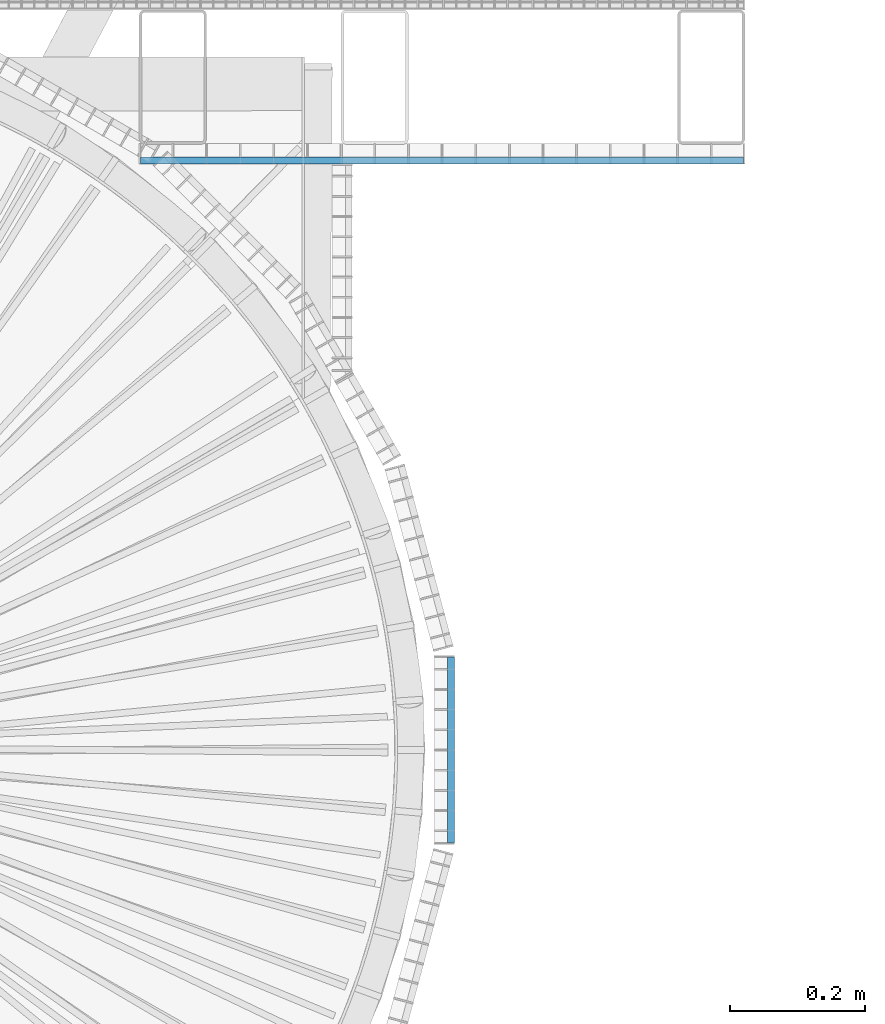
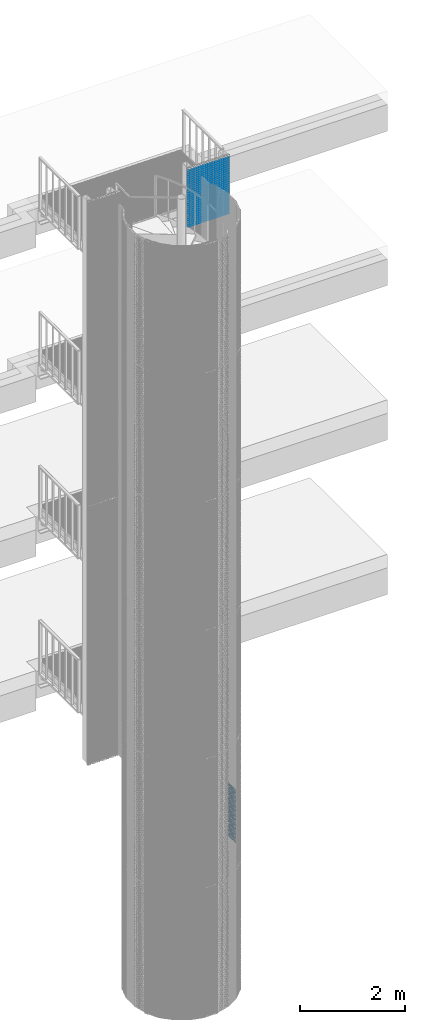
# One storey, part 291 of 1148: 69 beams, 2 elements without a shape of their own.
"""IFC2X3 building model written with IfcOpenShell, lengths in millimetres."""

from ifc_helpers import new_model, si_unit, frame, origin_with_axes, origin_2d_with_axis, place, context, subcontext, project, spatial, rectangle, extrude, material, type_object, element, aggregate, save


model = new_model("IFC2X3")

# Units and contexts
model_context = context("Model", 3, precision=1e-05, world=origin_with_axes())
body_context = subcontext(model_context, "Body", "Model", "MODEL_VIEW")
ifc_project = project(units=[si_unit("LENGTHUNIT", "METRE", prefix="MILLI"), si_unit("AREAUNIT", "SQUARE_METRE"), si_unit("VOLUMEUNIT", "CUBIC_METRE"), si_unit("MASSUNIT", "GRAM", prefix="KILO"), si_unit("TIMEUNIT", "SECOND"), si_unit("PLANEANGLEUNIT", "RADIAN"), si_unit("SOLIDANGLEUNIT", "STERADIAN"), si_unit("THERMODYNAMICTEMPERATUREUNIT", "DEGREE_CELSIUS"), si_unit("LUMINOUSINTENSITYUNIT", "LUMEN")], contexts=[model_context])

# Site, building, storey
site_placement = place(None, origin_with_axes())
site = spatial("IfcSite", under=ifc_project, at=site_placement, Name="Undefined", CompositionType="ELEMENT")
building_placement = place(site_placement, origin_with_axes())
building = spatial("IfcBuilding", under=site, at=building_placement, Name="Undefined", CompositionType="ELEMENT")
storey_placement = place(building_placement, origin_with_axes())
storey = spatial("IfcBuildingStorey", under=building, at=storey_placement, Name="Undefined", CompositionType="ELEMENT", Elevation=0.0)

# Assembly, beams
assembly_1_placement = place(storey_placement, origin_with_axes())
assembly_1 = element("IfcElementAssembly", 1, at=assembly_1_placement, inside=storey, Name="BORDURE", AssemblyPlace="NOTDEFINED", PredefinedType="NOTDEFINED")
ifc_material = material(Name="STEEL/S235JR")
beam_type = type_object("IfcBeamType", Name="PL2*10", PredefinedType="NOTDEFINED")
beam_1_placement = place(assembly_1_placement, frame((1113.47999999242, -137.996003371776, 4260.0), z_axis=(1.0, 0.0, 0.0), x_axis=(0.0, 1.0, 0.0)))
beam_1 = element("IfcBeam", 2, at=beam_1_placement, type_object=beam_type, material=ifc_material, Name="ENTRETOISE", context=body_context, shape_type="SweptSolid", body=[
    extrude(rectangle(XDim=2.0, YDim=10.0, at=origin_2d_with_axis()), frame((275.999999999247, 9.09494701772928e-13, 1.53210777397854e-14), z_axis=(-1.0, 0.0, 0.0), x_axis=(0.0, -1.0, 0.0)), (0.0, 0.0, 1.0), 276.0),
])
beam_2_placement = place(assembly_1_placement, frame((1113.47999999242, -137.996003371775, 4230.0), z_axis=(1.0, 0.0, 0.0), x_axis=(0.0, 1.0, 0.0)))
beam_2 = element("IfcBeam", 3, at=beam_2_placement, type_object=beam_type, material=ifc_material, Name="ENTRETOISE", context=body_context, shape_type="SweptSolid", body=[
    extrude(rectangle(XDim=2.0, YDim=10.0, at=origin_2d_with_axis()), frame((275.999999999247, 9.09494701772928e-13, 1.53210777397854e-14), z_axis=(-1.0, 0.0, 0.0), x_axis=(0.0, -1.0, 0.0)), (0.0, 0.0, 1.0), 276.0),
])
beam_3_placement = place(assembly_1_placement, frame((1113.47999999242, -137.996003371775, 4200.0), z_axis=(1.0, 0.0, 0.0), x_axis=(0.0, 1.0, 0.0)))
beam_3 = element("IfcBeam", 4, at=beam_3_placement, type_object=beam_type, material=ifc_material, Name="ENTRETOISE", context=body_context, shape_type="SweptSolid", body=[
    extrude(rectangle(XDim=2.0, YDim=10.0, at=origin_2d_with_axis()), frame((275.999999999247, 9.09494701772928e-13, 1.53210777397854e-14), z_axis=(-1.0, 0.0, 0.0), x_axis=(0.0, -1.0, 0.0)), (0.0, 0.0, 1.0), 276.0),
])
beam_4_placement = place(assembly_1_placement, frame((1113.47999999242, -137.996003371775, 4170.0), z_axis=(1.0, 0.0, 0.0), x_axis=(0.0, 1.0, 0.0)))
beam_4 = element("IfcBeam", 5, at=beam_4_placement, type_object=beam_type, material=ifc_material, Name="ENTRETOISE", context=body_context, shape_type="SweptSolid", body=[
    extrude(rectangle(XDim=2.0, YDim=10.0, at=origin_2d_with_axis()), frame((275.999999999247, 9.09494701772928e-13, 1.53210777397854e-14), z_axis=(-1.0, 0.0, 0.0), x_axis=(0.0, -1.0, 0.0)), (0.0, 0.0, 1.0), 276.0),
])
beam_5_placement = place(assembly_1_placement, frame((1113.47999999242, -137.996003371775, 4140.0), z_axis=(1.0, 0.0, 0.0), x_axis=(0.0, 1.0, 0.0)))
beam_5 = element("IfcBeam", 6, at=beam_5_placement, type_object=beam_type, material=ifc_material, Name="ENTRETOISE", context=body_context, shape_type="SweptSolid", body=[
    extrude(rectangle(XDim=2.0, YDim=10.0, at=origin_2d_with_axis()), frame((275.999999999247, 9.09494701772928e-13, 1.53210777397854e-14), z_axis=(-1.0, 0.0, 0.0), x_axis=(0.0, -1.0, 0.0)), (0.0, 0.0, 1.0), 276.0),
])
beam_6_placement = place(assembly_1_placement, frame((1113.47999999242, -137.996003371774, 3720.0), z_axis=(1.0, 0.0, 0.0), x_axis=(0.0, 1.0, 0.0)))
beam_6 = element("IfcBeam", 7, at=beam_6_placement, type_object=beam_type, material=ifc_material, Name="ENTRETOISE", context=body_context, shape_type="SweptSolid", body=[
    extrude(rectangle(XDim=2.0, YDim=10.0, at=origin_2d_with_axis()), frame((275.999999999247, 9.09494701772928e-13, 1.53210777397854e-14), z_axis=(-1.0, 0.0, 0.0), x_axis=(0.0, -1.0, 0.0)), (0.0, 0.0, 1.0), 276.0),
])
beam_7_placement = place(assembly_1_placement, frame((1113.47999999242, -137.996003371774, 3690.0), z_axis=(1.0, 0.0, 0.0), x_axis=(0.0, 1.0, 0.0)))
beam_7 = element("IfcBeam", 8, at=beam_7_placement, type_object=beam_type, material=ifc_material, Name="ENTRETOISE", context=body_context, shape_type="SweptSolid", body=[
    extrude(rectangle(XDim=2.0, YDim=10.0, at=origin_2d_with_axis()), frame((275.999999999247, 9.09494701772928e-13, 1.53210777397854e-14), z_axis=(-1.0, 0.0, 0.0), x_axis=(0.0, -1.0, 0.0)), (0.0, 0.0, 1.0), 276.0),
])
beam_8_placement = place(assembly_1_placement, frame((1113.47999999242, -137.996003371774, 3750.0), z_axis=(1.0, 0.0, 0.0), x_axis=(0.0, 1.0, 0.0)))
beam_8 = element("IfcBeam", 9, at=beam_8_placement, type_object=beam_type, material=ifc_material, Name="ENTRETOISE", context=body_context, shape_type="SweptSolid", body=[
    extrude(rectangle(XDim=2.0, YDim=10.0, at=origin_2d_with_axis()), frame((275.999999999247, 9.09494701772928e-13, 1.53210777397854e-14), z_axis=(-1.0, 0.0, 0.0), x_axis=(0.0, -1.0, 0.0)), (0.0, 0.0, 1.0), 276.0),
])
beam_9_placement = place(assembly_1_placement, frame((1113.47999999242, -137.996003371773, 3660.0), z_axis=(1.0, 0.0, 0.0), x_axis=(0.0, 1.0, 0.0)))
beam_9 = element("IfcBeam", 10, at=beam_9_placement, type_object=beam_type, material=ifc_material, Name="ENTRETOISE", context=body_context, shape_type="SweptSolid", body=[
    extrude(rectangle(XDim=2.0, YDim=10.0, at=origin_2d_with_axis()), frame((275.999999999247, 9.09494701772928e-13, 1.53210777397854e-14), z_axis=(-1.0, 0.0, 0.0), x_axis=(0.0, -1.0, 0.0)), (0.0, 0.0, 1.0), 276.0),
])
beam_10_placement = place(assembly_1_placement, frame((1113.47999999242, -137.996003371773, 3630.0), z_axis=(1.0, 0.0, 0.0), x_axis=(0.0, 1.0, 0.0)))
beam_10 = element("IfcBeam", 11, at=beam_10_placement, type_object=beam_type, material=ifc_material, Name="ENTRETOISE", context=body_context, shape_type="SweptSolid", body=[
    extrude(rectangle(XDim=2.0, YDim=10.0, at=origin_2d_with_axis()), frame((275.999999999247, 9.09494701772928e-13, 1.53210777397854e-14), z_axis=(-1.0, 0.0, 0.0), x_axis=(0.0, -1.0, 0.0)), (0.0, 0.0, 1.0), 276.0),
])
beam_11_placement = place(assembly_1_placement, frame((1113.47999999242, -137.996003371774, 3780.0), z_axis=(1.0, 0.0, 0.0), x_axis=(0.0, 1.0, 0.0)))
beam_11 = element("IfcBeam", 12, at=beam_11_placement, type_object=beam_type, material=ifc_material, Name="ENTRETOISE", context=body_context, shape_type="SweptSolid", body=[
    extrude(rectangle(XDim=2.0, YDim=10.0, at=origin_2d_with_axis()), frame((275.999999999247, 9.09494701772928e-13, 1.53210777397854e-14), z_axis=(-1.0, 0.0, 0.0), x_axis=(0.0, -1.0, 0.0)), (0.0, 0.0, 1.0), 276.0),
])
beam_12_placement = place(assembly_1_placement, frame((1113.47999999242, -137.996003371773, 3600.0), z_axis=(1.0, 0.0, 0.0), x_axis=(0.0, 1.0, 0.0)))
beam_12 = element("IfcBeam", 13, at=beam_12_placement, type_object=beam_type, material=ifc_material, Name="ENTRETOISE", context=body_context, shape_type="SweptSolid", body=[
    extrude(rectangle(XDim=2.0, YDim=10.0, at=origin_2d_with_axis()), frame((275.999999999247, 9.09494701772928e-13, 1.53210777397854e-14), z_axis=(-1.0, 0.0, 0.0), x_axis=(0.0, -1.0, 0.0)), (0.0, 0.0, 1.0), 276.0),
])
beam_13_placement = place(assembly_1_placement, frame((1113.47999999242, -137.996003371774, 3810.0), z_axis=(1.0, 0.0, 0.0), x_axis=(0.0, 1.0, 0.0)))
beam_13 = element("IfcBeam", 14, at=beam_13_placement, type_object=beam_type, material=ifc_material, Name="ENTRETOISE", context=body_context, shape_type="SweptSolid", body=[
    extrude(rectangle(XDim=2.0, YDim=10.0, at=origin_2d_with_axis()), frame((275.999999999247, 9.09494701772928e-13, 1.53210777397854e-14), z_axis=(-1.0, 0.0, 0.0), x_axis=(0.0, -1.0, 0.0)), (0.0, 0.0, 1.0), 276.0),
])
beam_14_placement = place(assembly_1_placement, frame((1113.47999999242, -137.996003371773, 3570.0), z_axis=(1.0, 0.0, 0.0), x_axis=(0.0, 1.0, 0.0)))
beam_14 = element("IfcBeam", 15, at=beam_14_placement, type_object=beam_type, material=ifc_material, Name="ENTRETOISE", context=body_context, shape_type="SweptSolid", body=[
    extrude(rectangle(XDim=2.0, YDim=10.0, at=origin_2d_with_axis()), frame((275.999999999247, 9.09494701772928e-13, 1.53210777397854e-14), z_axis=(-1.0, 0.0, 0.0), x_axis=(0.0, -1.0, 0.0)), (0.0, 0.0, 1.0), 276.0),
])
beam_15_placement = place(assembly_1_placement, frame((1113.47999999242, -137.996003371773, 3540.0), z_axis=(1.0, 0.0, 0.0), x_axis=(0.0, 1.0, 0.0)))
beam_15 = element("IfcBeam", 16, at=beam_15_placement, type_object=beam_type, material=ifc_material, Name="ENTRETOISE", context=body_context, shape_type="SweptSolid", body=[
    extrude(rectangle(XDim=2.0, YDim=10.0, at=origin_2d_with_axis()), frame((275.999999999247, 9.09494701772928e-13, 1.53210777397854e-14), z_axis=(-1.0, 0.0, 0.0), x_axis=(0.0, -1.0, 0.0)), (0.0, 0.0, 1.0), 276.0),
])
beam_16_placement = place(assembly_1_placement, frame((1113.47999999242, -137.996003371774, 3840.0), z_axis=(1.0, 0.0, 0.0), x_axis=(0.0, 1.0, 0.0)))
beam_16 = element("IfcBeam", 17, at=beam_16_placement, type_object=beam_type, material=ifc_material, Name="ENTRETOISE", context=body_context, shape_type="SweptSolid", body=[
    extrude(rectangle(XDim=2.0, YDim=10.0, at=origin_2d_with_axis()), frame((275.999999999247, 9.09494701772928e-13, 1.53210777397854e-14), z_axis=(-1.0, 0.0, 0.0), x_axis=(0.0, -1.0, 0.0)), (0.0, 0.0, 1.0), 276.0),
])
beam_17_placement = place(assembly_1_placement, frame((1113.47999999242, -137.996003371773, 3510.0), z_axis=(1.0, 0.0, 0.0), x_axis=(0.0, 1.0, 0.0)))
beam_17 = element("IfcBeam", 18, at=beam_17_placement, type_object=beam_type, material=ifc_material, Name="ENTRETOISE", context=body_context, shape_type="SweptSolid", body=[
    extrude(rectangle(XDim=2.0, YDim=10.0, at=origin_2d_with_axis()), frame((275.999999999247, 9.09494701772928e-13, 1.53210777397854e-14), z_axis=(-1.0, 0.0, 0.0), x_axis=(0.0, -1.0, 0.0)), (0.0, 0.0, 1.0), 276.0),
])
beam_18_placement = place(assembly_1_placement, frame((1113.47999999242, -137.996003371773, 3480.0), z_axis=(1.0, 0.0, 0.0), x_axis=(0.0, 1.0, 0.0)))
beam_18 = element("IfcBeam", 19, at=beam_18_placement, type_object=beam_type, material=ifc_material, Name="ENTRETOISE", context=body_context, shape_type="SweptSolid", body=[
    extrude(rectangle(XDim=2.0, YDim=10.0, at=origin_2d_with_axis()), frame((275.999999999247, 9.09494701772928e-13, 1.53210777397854e-14), z_axis=(-1.0, 0.0, 0.0), x_axis=(0.0, -1.0, 0.0)), (0.0, 0.0, 1.0), 276.0),
])
beam_19_placement = place(assembly_1_placement, frame((1113.47999999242, -137.996003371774, 3870.0), z_axis=(1.0, 0.0, 0.0), x_axis=(0.0, 1.0, 0.0)))
beam_19 = element("IfcBeam", 20, at=beam_19_placement, type_object=beam_type, material=ifc_material, Name="ENTRETOISE", context=body_context, shape_type="SweptSolid", body=[
    extrude(rectangle(XDim=2.0, YDim=10.0, at=origin_2d_with_axis()), frame((275.999999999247, 9.09494701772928e-13, 1.53210777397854e-14), z_axis=(-1.0, 0.0, 0.0), x_axis=(0.0, -1.0, 0.0)), (0.0, 0.0, 1.0), 276.0),
])
beam_20_placement = place(assembly_1_placement, frame((1113.47999999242, -137.996003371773, 3450.0), z_axis=(1.0, 0.0, 0.0), x_axis=(0.0, 1.0, 0.0)))
beam_20 = element("IfcBeam", 21, at=beam_20_placement, type_object=beam_type, material=ifc_material, Name="ENTRETOISE", context=body_context, shape_type="SweptSolid", body=[
    extrude(rectangle(XDim=2.0, YDim=10.0, at=origin_2d_with_axis()), frame((275.999999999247, 9.09494701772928e-13, 1.53210777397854e-14), z_axis=(-1.0, 0.0, 0.0), x_axis=(0.0, -1.0, 0.0)), (0.0, 0.0, 1.0), 276.0),
])
beam_21_placement = place(assembly_1_placement, frame((1113.47999999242, -137.996003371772, 3420.0), z_axis=(1.0, 0.0, 0.0), x_axis=(0.0, 1.0, 0.0)))
beam_21 = element("IfcBeam", 22, at=beam_21_placement, type_object=beam_type, material=ifc_material, Name="ENTRETOISE", context=body_context, shape_type="SweptSolid", body=[
    extrude(rectangle(XDim=2.0, YDim=10.0, at=origin_2d_with_axis()), frame((275.999999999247, 9.09494701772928e-13, 1.53210777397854e-14), z_axis=(-1.0, 0.0, 0.0), x_axis=(0.0, -1.0, 0.0)), (0.0, 0.0, 1.0), 276.0),
])
beam_22_placement = place(assembly_1_placement, frame((1113.47999999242, -137.996003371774, 3900.0), z_axis=(1.0, 0.0, 0.0), x_axis=(0.0, 1.0, 0.0)))
beam_22 = element("IfcBeam", 23, at=beam_22_placement, type_object=beam_type, material=ifc_material, Name="ENTRETOISE", context=body_context, shape_type="SweptSolid", body=[
    extrude(rectangle(XDim=2.0, YDim=10.0, at=origin_2d_with_axis()), frame((275.999999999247, 9.09494701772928e-13, 1.53210777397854e-14), z_axis=(-1.0, 0.0, 0.0), x_axis=(0.0, -1.0, 0.0)), (0.0, 0.0, 1.0), 276.0),
])
beam_23_placement = place(assembly_1_placement, frame((1113.47999999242, -137.996003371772, 3390.0), z_axis=(1.0, 0.0, 0.0), x_axis=(0.0, 1.0, 0.0)))
beam_23 = element("IfcBeam", 24, at=beam_23_placement, type_object=beam_type, material=ifc_material, Name="ENTRETOISE", context=body_context, shape_type="SweptSolid", body=[
    extrude(rectangle(XDim=2.0, YDim=10.0, at=origin_2d_with_axis()), frame((275.999999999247, 9.09494701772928e-13, 1.53210777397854e-14), z_axis=(-1.0, 0.0, 0.0), x_axis=(0.0, -1.0, 0.0)), (0.0, 0.0, 1.0), 276.0),
])
beam_24_placement = place(assembly_1_placement, frame((1113.47999999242, -137.996003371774, 3930.0), z_axis=(1.0, 0.0, 0.0), x_axis=(0.0, 1.0, 0.0)))
beam_24 = element("IfcBeam", 25, at=beam_24_placement, type_object=beam_type, material=ifc_material, Name="ENTRETOISE", context=body_context, shape_type="SweptSolid", body=[
    extrude(rectangle(XDim=2.0, YDim=10.0, at=origin_2d_with_axis()), frame((275.999999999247, 9.09494701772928e-13, 1.53210777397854e-14), z_axis=(-1.0, 0.0, 0.0), x_axis=(0.0, -1.0, 0.0)), (0.0, 0.0, 1.0), 276.0),
])
beam_25_placement = place(assembly_1_placement, frame((1113.47999999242, -137.996003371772, 3360.0), z_axis=(1.0, 0.0, 0.0), x_axis=(0.0, 1.0, 0.0)))
beam_25 = element("IfcBeam", 26, at=beam_25_placement, type_object=beam_type, material=ifc_material, Name="ENTRETOISE", context=body_context, shape_type="SweptSolid", body=[
    extrude(rectangle(XDim=2.0, YDim=10.0, at=origin_2d_with_axis()), frame((275.999999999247, 9.09494701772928e-13, 1.53210777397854e-14), z_axis=(-1.0, 0.0, 0.0), x_axis=(0.0, -1.0, 0.0)), (0.0, 0.0, 1.0), 276.0),
])
beam_26_placement = place(assembly_1_placement, frame((1113.47999999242, -137.996003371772, 3330.0), z_axis=(1.0, 0.0, 0.0), x_axis=(0.0, 1.0, 0.0)))
beam_26 = element("IfcBeam", 27, at=beam_26_placement, type_object=beam_type, material=ifc_material, Name="ENTRETOISE", context=body_context, shape_type="SweptSolid", body=[
    extrude(rectangle(XDim=2.0, YDim=10.0, at=origin_2d_with_axis()), frame((275.999999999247, 9.09494701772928e-13, 1.53210777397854e-14), z_axis=(-1.0, 0.0, 0.0), x_axis=(0.0, -1.0, 0.0)), (0.0, 0.0, 1.0), 276.0),
])
beam_27_placement = place(assembly_1_placement, frame((1113.47999999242, -137.996003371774, 3960.0), z_axis=(1.0, 0.0, 0.0), x_axis=(0.0, 1.0, 0.0)))
beam_27 = element("IfcBeam", 28, at=beam_27_placement, type_object=beam_type, material=ifc_material, Name="ENTRETOISE", context=body_context, shape_type="SweptSolid", body=[
    extrude(rectangle(XDim=2.0, YDim=10.0, at=origin_2d_with_axis()), frame((275.999999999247, 9.09494701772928e-13, 1.53210777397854e-14), z_axis=(-1.0, 0.0, 0.0), x_axis=(0.0, -1.0, 0.0)), (0.0, 0.0, 1.0), 276.0),
])
beam_28_placement = place(assembly_1_placement, frame((1113.47999999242, -137.996003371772, 3300.0), z_axis=(1.0, 0.0, 0.0), x_axis=(0.0, 1.0, 0.0)))
beam_28 = element("IfcBeam", 29, at=beam_28_placement, type_object=beam_type, material=ifc_material, Name="ENTRETOISE", context=body_context, shape_type="SweptSolid", body=[
    extrude(rectangle(XDim=2.0, YDim=10.0, at=origin_2d_with_axis()), frame((275.999999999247, 9.09494701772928e-13, 1.53210777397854e-14), z_axis=(-1.0, 0.0, 0.0), x_axis=(0.0, -1.0, 0.0)), (0.0, 0.0, 1.0), 276.0),
])
beam_29_placement = place(assembly_1_placement, frame((1113.47999999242, -137.996003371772, 3270.0), z_axis=(1.0, 0.0, 0.0), x_axis=(0.0, 1.0, 0.0)))
beam_29 = element("IfcBeam", 30, at=beam_29_placement, type_object=beam_type, material=ifc_material, Name="ENTRETOISE", context=body_context, shape_type="SweptSolid", body=[
    extrude(rectangle(XDim=2.0, YDim=10.0, at=origin_2d_with_axis()), frame((275.999999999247, 9.09494701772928e-13, 1.53210777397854e-14), z_axis=(-1.0, 0.0, 0.0), x_axis=(0.0, -1.0, 0.0)), (0.0, 0.0, 1.0), 276.0),
])
beam_30_placement = place(assembly_1_placement, frame((1113.47999999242, -137.996003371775, 3990.0), z_axis=(1.0, 0.0, 0.0), x_axis=(0.0, 1.0, 0.0)))
beam_30 = element("IfcBeam", 31, at=beam_30_placement, type_object=beam_type, material=ifc_material, Name="ENTRETOISE", context=body_context, shape_type="SweptSolid", body=[
    extrude(rectangle(XDim=2.0, YDim=10.0, at=origin_2d_with_axis()), frame((275.999999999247, 9.09494701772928e-13, 1.53210777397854e-14), z_axis=(-1.0, 0.0, 0.0), x_axis=(0.0, -1.0, 0.0)), (0.0, 0.0, 1.0), 276.0),
])
beam_31_placement = place(assembly_1_placement, frame((1113.47999999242, -137.996003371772, 3240.0), z_axis=(1.0, 0.0, 0.0), x_axis=(0.0, 1.0, 0.0)))
beam_31 = element("IfcBeam", 32, at=beam_31_placement, type_object=beam_type, material=ifc_material, Name="ENTRETOISE", context=body_context, shape_type="SweptSolid", body=[
    extrude(rectangle(XDim=2.0, YDim=10.0, at=origin_2d_with_axis()), frame((275.999999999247, 9.09494701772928e-13, 1.53210777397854e-14), z_axis=(-1.0, 0.0, 0.0), x_axis=(0.0, -1.0, 0.0)), (0.0, 0.0, 1.0), 276.0),
])
beam_32_placement = place(assembly_1_placement, frame((1113.47999999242, -137.996003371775, 4020.0), z_axis=(1.0, 0.0, 0.0), x_axis=(0.0, 1.0, 0.0)))
beam_32 = element("IfcBeam", 33, at=beam_32_placement, type_object=beam_type, material=ifc_material, Name="ENTRETOISE", context=body_context, shape_type="SweptSolid", body=[
    extrude(rectangle(XDim=2.0, YDim=10.0, at=origin_2d_with_axis()), frame((275.999999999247, 9.09494701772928e-13, 1.53210777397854e-14), z_axis=(-1.0, 0.0, 0.0), x_axis=(0.0, -1.0, 0.0)), (0.0, 0.0, 1.0), 276.0),
])
beam_33_placement = place(assembly_1_placement, frame((1113.47999999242, -137.996003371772, 3210.0), z_axis=(1.0, 0.0, 0.0), x_axis=(0.0, 1.0, 0.0)))
beam_33 = element("IfcBeam", 34, at=beam_33_placement, type_object=beam_type, material=ifc_material, Name="ENTRETOISE", context=body_context, shape_type="SweptSolid", body=[
    extrude(rectangle(XDim=2.0, YDim=10.0, at=origin_2d_with_axis()), frame((275.999999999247, 9.09494701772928e-13, 1.53210777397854e-14), z_axis=(-1.0, 0.0, 0.0), x_axis=(0.0, -1.0, 0.0)), (0.0, 0.0, 1.0), 276.0),
])
beam_34_placement = place(assembly_1_placement, frame((1113.47999999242, -137.996003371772, 3180.0), z_axis=(1.0, 0.0, 0.0), x_axis=(0.0, 1.0, 0.0)))
beam_34 = element("IfcBeam", 35, at=beam_34_placement, type_object=beam_type, material=ifc_material, Name="ENTRETOISE", context=body_context, shape_type="SweptSolid", body=[
    extrude(rectangle(XDim=2.0, YDim=10.0, at=origin_2d_with_axis()), frame((275.999999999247, 9.09494701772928e-13, 1.53210777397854e-14), z_axis=(-1.0, 0.0, 0.0), x_axis=(0.0, -1.0, 0.0)), (0.0, 0.0, 1.0), 276.0),
])
beam_35_placement = place(assembly_1_placement, frame((1113.47999999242, -137.996003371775, 4050.0), z_axis=(1.0, 0.0, 0.0), x_axis=(0.0, 1.0, 0.0)))
beam_35 = element("IfcBeam", 36, at=beam_35_placement, type_object=beam_type, material=ifc_material, Name="ENTRETOISE", context=body_context, shape_type="SweptSolid", body=[
    extrude(rectangle(XDim=2.0, YDim=10.0, at=origin_2d_with_axis()), frame((275.999999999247, 9.09494701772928e-13, 1.53210777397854e-14), z_axis=(-1.0, 0.0, 0.0), x_axis=(0.0, -1.0, 0.0)), (0.0, 0.0, 1.0), 276.0),
])
beam_36_placement = place(assembly_1_placement, frame((1113.47999999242, -137.996003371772, 3150.0), z_axis=(1.0, 0.0, 0.0), x_axis=(0.0, 1.0, 0.0)))
beam_36 = element("IfcBeam", 37, at=beam_36_placement, type_object=beam_type, material=ifc_material, Name="ENTRETOISE", context=body_context, shape_type="SweptSolid", body=[
    extrude(rectangle(XDim=2.0, YDim=10.0, at=origin_2d_with_axis()), frame((275.999999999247, 9.09494701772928e-13, 1.53210777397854e-14), z_axis=(-1.0, 0.0, 0.0), x_axis=(0.0, -1.0, 0.0)), (0.0, 0.0, 1.0), 276.0),
])
beam_37_placement = place(assembly_1_placement, frame((1113.47999999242, -137.996003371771, 3120.0), z_axis=(1.0, 0.0, 0.0), x_axis=(0.0, 1.0, 0.0)))
beam_37 = element("IfcBeam", 38, at=beam_37_placement, type_object=beam_type, material=ifc_material, Name="ENTRETOISE", context=body_context, shape_type="SweptSolid", body=[
    extrude(rectangle(XDim=2.0, YDim=10.0, at=origin_2d_with_axis()), frame((275.999999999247, 9.09494701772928e-13, 1.53210777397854e-14), z_axis=(-1.0, 0.0, 0.0), x_axis=(0.0, -1.0, 0.0)), (0.0, 0.0, 1.0), 276.0),
])
beam_38_placement = place(assembly_1_placement, frame((1113.47999999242, -137.996003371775, 4080.0), z_axis=(1.0, 0.0, 0.0), x_axis=(0.0, 1.0, 0.0)))
beam_38 = element("IfcBeam", 39, at=beam_38_placement, type_object=beam_type, material=ifc_material, Name="ENTRETOISE", context=body_context, shape_type="SweptSolid", body=[
    extrude(rectangle(XDim=2.0, YDim=10.0, at=origin_2d_with_axis()), frame((275.999999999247, 9.09494701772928e-13, 1.53210777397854e-14), z_axis=(-1.0, 0.0, 0.0), x_axis=(0.0, -1.0, 0.0)), (0.0, 0.0, 1.0), 276.0),
])
beam_39_placement = place(assembly_1_placement, frame((1113.47999999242, -137.996003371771, 3090.0), z_axis=(1.0, 0.0, 0.0), x_axis=(0.0, 1.0, 0.0)))
beam_39 = element("IfcBeam", 40, at=beam_39_placement, type_object=beam_type, material=ifc_material, Name="ENTRETOISE", context=body_context, shape_type="SweptSolid", body=[
    extrude(rectangle(XDim=2.0, YDim=10.0, at=origin_2d_with_axis()), frame((275.999999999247, 9.09494701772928e-13, 1.53210777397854e-14), z_axis=(-1.0, 0.0, 0.0), x_axis=(0.0, -1.0, 0.0)), (0.0, 0.0, 1.0), 276.0),
])
beam_40_placement = place(assembly_1_placement, frame((1113.47999999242, -137.996003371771, 3060.0), z_axis=(1.0, 0.0, 0.0), x_axis=(0.0, 1.0, 0.0)))
beam_40 = element("IfcBeam", 41, at=beam_40_placement, type_object=beam_type, material=ifc_material, Name="ENTRETOISE", context=body_context, shape_type="SweptSolid", body=[
    extrude(rectangle(XDim=2.0, YDim=10.0, at=origin_2d_with_axis()), frame((275.999999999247, 9.09494701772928e-13, 1.53210777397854e-14), z_axis=(-1.0, 0.0, 0.0), x_axis=(0.0, -1.0, 0.0)), (0.0, 0.0, 1.0), 276.0),
])
beam_41_placement = place(assembly_1_placement, frame((1113.47999999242, -137.996003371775, 4110.0), z_axis=(1.0, 0.0, 0.0), x_axis=(0.0, 1.0, 0.0)))
beam_41 = element("IfcBeam", 42, at=beam_41_placement, type_object=beam_type, material=ifc_material, Name="ENTRETOISE", context=body_context, shape_type="SweptSolid", body=[
    extrude(rectangle(XDim=2.0, YDim=10.0, at=origin_2d_with_axis()), frame((275.999999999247, 9.09494701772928e-13, 1.53210777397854e-14), z_axis=(-1.0, 0.0, 0.0), x_axis=(0.0, -1.0, 0.0)), (0.0, 0.0, 1.0), 276.0),
])
beam_42_placement = place(assembly_1_placement, frame((1113.47999999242, -137.99600337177, 3030.0), z_axis=(1.0, 0.0, 0.0), x_axis=(0.0, 1.0, 0.0)))
beam_42 = element("IfcBeam", 43, at=beam_42_placement, type_object=beam_type, material=ifc_material, Name="ENTRETOISE", context=body_context, shape_type="SweptSolid", body=[
    extrude(rectangle(XDim=2.0, YDim=10.0, at=origin_2d_with_axis()), frame((275.999999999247, 9.09494701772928e-13, 1.53210777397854e-14), z_axis=(-1.0, 0.0, 0.0), x_axis=(0.0, -1.0, 0.0)), (0.0, 0.0, 1.0), 276.0),
])
aggregate(assembly_1, [beam_1, beam_2, beam_3, beam_4, beam_5, beam_6, beam_7, beam_8, beam_9, beam_10, beam_11, beam_12, beam_13, beam_14, beam_15, beam_16, beam_17, beam_18, beam_19, beam_20, beam_21, beam_22, beam_23, beam_24, beam_25, beam_26, beam_27, beam_28, beam_29, beam_30, beam_31, beam_32, beam_33, beam_34, beam_35, beam_36, beam_37, beam_38, beam_39, beam_40, beam_41, beam_42])

assembly_2_placement = place(storey_placement, origin_with_axes())
assembly_2 = element("IfcElementAssembly", 44, at=assembly_2_placement, inside=storey, Name="BORDURE", AssemblyPlace="NOTDEFINED", PredefinedType="NOTDEFINED")
beam_43_placement = place(assembly_2_placement, frame((652.069589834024, 876.014689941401, 18239.998), z_axis=(0.0, -1.0, 0.0), x_axis=(1.0, 0.0, 0.0)))
beam_43 = element("IfcBeam", 45, at=beam_43_placement, type_object=beam_type, material=ifc_material, Name="ENTRETOISE", context=body_context, shape_type="SweptSolid", body=[
    extrude(rectangle(XDim=2.0, YDim=10.0, at=origin_2d_with_axis()), frame((896.0, 0.0, 0.0), z_axis=(-1.0, 0.0, 0.0), x_axis=(0.0, -1.0, 0.0)), (0.0, 0.0, 1.0), 896.0),
])
beam_44_placement = place(assembly_2_placement, frame((652.069589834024, 876.014689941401, 18189.998), z_axis=(0.0, -1.0, 0.0), x_axis=(1.0, 0.0, 0.0)))
beam_44 = element("IfcBeam", 46, at=beam_44_placement, type_object=beam_type, material=ifc_material, Name="ENTRETOISE", context=body_context, shape_type="SweptSolid", body=[
    extrude(rectangle(XDim=2.0, YDim=10.0, at=origin_2d_with_axis()), frame((896.0, 0.0, 0.0), z_axis=(-1.0, 0.0, 0.0), x_axis=(0.0, -1.0, 0.0)), (0.0, 0.0, 1.0), 896.0),
])
beam_45_placement = place(assembly_2_placement, frame((652.069589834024, 876.014689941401, 18139.998), z_axis=(0.0, -1.0, 0.0), x_axis=(1.0, 0.0, 0.0)))
beam_45 = element("IfcBeam", 47, at=beam_45_placement, type_object=beam_type, material=ifc_material, Name="ENTRETOISE", context=body_context, shape_type="SweptSolid", body=[
    extrude(rectangle(XDim=2.0, YDim=10.0, at=origin_2d_with_axis()), frame((896.0, 0.0, 0.0), z_axis=(-1.0, 0.0, 0.0), x_axis=(0.0, -1.0, 0.0)), (0.0, 0.0, 1.0), 896.0),
])
beam_46_placement = place(assembly_2_placement, frame((652.069589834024, 876.014689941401, 18089.998), z_axis=(0.0, -1.0, 0.0), x_axis=(1.0, 0.0, 0.0)))
beam_46 = element("IfcBeam", 48, at=beam_46_placement, type_object=beam_type, material=ifc_material, Name="ENTRETOISE", context=body_context, shape_type="SweptSolid", body=[
    extrude(rectangle(XDim=2.0, YDim=10.0, at=origin_2d_with_axis()), frame((896.0, 0.0, 0.0), z_axis=(-1.0, 0.0, 0.0), x_axis=(0.0, -1.0, 0.0)), (0.0, 0.0, 1.0), 896.0),
])
beam_47_placement = place(assembly_2_placement, frame((652.069589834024, 876.014689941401, 18039.998), z_axis=(0.0, -1.0, 0.0), x_axis=(1.0, 0.0, 0.0)))
beam_47 = element("IfcBeam", 49, at=beam_47_placement, type_object=beam_type, material=ifc_material, Name="ENTRETOISE", context=body_context, shape_type="SweptSolid", body=[
    extrude(rectangle(XDim=2.0, YDim=10.0, at=origin_2d_with_axis()), frame((896.0, 0.0, 0.0), z_axis=(-1.0, 0.0, 0.0), x_axis=(0.0, -1.0, 0.0)), (0.0, 0.0, 1.0), 896.0),
])
beam_48_placement = place(assembly_2_placement, frame((652.069589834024, 876.014689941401, 17989.998), z_axis=(0.0, -1.0, 0.0), x_axis=(1.0, 0.0, 0.0)))
beam_48 = element("IfcBeam", 50, at=beam_48_placement, type_object=beam_type, material=ifc_material, Name="ENTRETOISE", context=body_context, shape_type="SweptSolid", body=[
    extrude(rectangle(XDim=2.0, YDim=10.0, at=origin_2d_with_axis()), frame((896.0, 0.0, 0.0), z_axis=(-1.0, 0.0, 0.0), x_axis=(0.0, -1.0, 0.0)), (0.0, 0.0, 1.0), 896.0),
])
beam_49_placement = place(assembly_2_placement, frame((652.069589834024, 876.014689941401, 17939.998), z_axis=(0.0, -1.0, 0.0), x_axis=(1.0, 0.0, 0.0)))
beam_49 = element("IfcBeam", 51, at=beam_49_placement, type_object=beam_type, material=ifc_material, Name="ENTRETOISE", context=body_context, shape_type="SweptSolid", body=[
    extrude(rectangle(XDim=2.0, YDim=10.0, at=origin_2d_with_axis()), frame((896.0, 0.0, 0.0), z_axis=(-1.0, 0.0, 0.0), x_axis=(0.0, -1.0, 0.0)), (0.0, 0.0, 1.0), 896.0),
])
beam_50_placement = place(assembly_2_placement, frame((652.069589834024, 876.014689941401, 17889.998), z_axis=(0.0, -1.0, 0.0), x_axis=(1.0, 0.0, 0.0)))
beam_50 = element("IfcBeam", 52, at=beam_50_placement, type_object=beam_type, material=ifc_material, Name="ENTRETOISE", context=body_context, shape_type="SweptSolid", body=[
    extrude(rectangle(XDim=2.0, YDim=10.0, at=origin_2d_with_axis()), frame((896.0, 0.0, 0.0), z_axis=(-1.0, 0.0, 0.0), x_axis=(0.0, -1.0, 0.0)), (0.0, 0.0, 1.0), 896.0),
])
beam_51_placement = place(assembly_2_placement, frame((652.069589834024, 876.014689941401, 17839.998), z_axis=(0.0, -1.0, 0.0), x_axis=(1.0, 0.0, 0.0)))
beam_51 = element("IfcBeam", 53, at=beam_51_placement, type_object=beam_type, material=ifc_material, Name="ENTRETOISE", context=body_context, shape_type="SweptSolid", body=[
    extrude(rectangle(XDim=2.0, YDim=10.0, at=origin_2d_with_axis()), frame((896.0, 0.0, 0.0), z_axis=(-1.0, 0.0, 0.0), x_axis=(0.0, -1.0, 0.0)), (0.0, 0.0, 1.0), 896.0),
])
beam_52_placement = place(assembly_2_placement, frame((652.069589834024, 876.014689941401, 17789.998), z_axis=(0.0, -1.0, 0.0), x_axis=(1.0, 0.0, 0.0)))
beam_52 = element("IfcBeam", 54, at=beam_52_placement, type_object=beam_type, material=ifc_material, Name="ENTRETOISE", context=body_context, shape_type="SweptSolid", body=[
    extrude(rectangle(XDim=2.0, YDim=10.0, at=origin_2d_with_axis()), frame((896.0, 0.0, 0.0), z_axis=(-1.0, 0.0, 0.0), x_axis=(0.0, -1.0, 0.0)), (0.0, 0.0, 1.0), 896.0),
])
beam_53_placement = place(assembly_2_placement, frame((652.069589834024, 876.014689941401, 17739.998), z_axis=(0.0, -1.0, 0.0), x_axis=(1.0, 0.0, 0.0)))
beam_53 = element("IfcBeam", 55, at=beam_53_placement, type_object=beam_type, material=ifc_material, Name="ENTRETOISE", context=body_context, shape_type="SweptSolid", body=[
    extrude(rectangle(XDim=2.0, YDim=10.0, at=origin_2d_with_axis()), frame((896.0, 0.0, 0.0), z_axis=(-1.0, 0.0, 0.0), x_axis=(0.0, -1.0, 0.0)), (0.0, 0.0, 1.0), 896.0),
])
beam_54_placement = place(assembly_2_placement, frame((652.069589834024, 876.014689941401, 17689.998), z_axis=(0.0, -1.0, 0.0), x_axis=(1.0, 0.0, 0.0)))
beam_54 = element("IfcBeam", 56, at=beam_54_placement, type_object=beam_type, material=ifc_material, Name="ENTRETOISE", context=body_context, shape_type="SweptSolid", body=[
    extrude(rectangle(XDim=2.0, YDim=10.0, at=origin_2d_with_axis()), frame((896.0, 0.0, 0.0), z_axis=(-1.0, 0.0, 0.0), x_axis=(0.0, -1.0, 0.0)), (0.0, 0.0, 1.0), 896.0),
])
beam_55_placement = place(assembly_2_placement, frame((652.069589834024, 876.014689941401, 17639.998), z_axis=(0.0, -1.0, 0.0), x_axis=(1.0, 0.0, 0.0)))
beam_55 = element("IfcBeam", 57, at=beam_55_placement, type_object=beam_type, material=ifc_material, Name="ENTRETOISE", context=body_context, shape_type="SweptSolid", body=[
    extrude(rectangle(XDim=2.0, YDim=10.0, at=origin_2d_with_axis()), frame((896.0, 0.0, 0.0), z_axis=(-1.0, 0.0, 0.0), x_axis=(0.0, -1.0, 0.0)), (0.0, 0.0, 1.0), 896.0),
])
beam_56_placement = place(assembly_2_placement, frame((652.069589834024, 876.014689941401, 17589.998), z_axis=(0.0, -1.0, 0.0), x_axis=(1.0, 0.0, 0.0)))
beam_56 = element("IfcBeam", 58, at=beam_56_placement, type_object=beam_type, material=ifc_material, Name="ENTRETOISE", context=body_context, shape_type="SweptSolid", body=[
    extrude(rectangle(XDim=2.0, YDim=10.0, at=origin_2d_with_axis()), frame((896.0, 0.0, 0.0), z_axis=(-1.0, 0.0, 0.0), x_axis=(0.0, -1.0, 0.0)), (0.0, 0.0, 1.0), 896.0),
])
beam_57_placement = place(assembly_2_placement, frame((652.069589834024, 876.014689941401, 17539.998), z_axis=(0.0, -1.0, 0.0), x_axis=(1.0, 0.0, 0.0)))
beam_57 = element("IfcBeam", 59, at=beam_57_placement, type_object=beam_type, material=ifc_material, Name="ENTRETOISE", context=body_context, shape_type="SweptSolid", body=[
    extrude(rectangle(XDim=2.0, YDim=10.0, at=origin_2d_with_axis()), frame((896.0, 0.0, 0.0), z_axis=(-1.0, 0.0, 0.0), x_axis=(0.0, -1.0, 0.0)), (0.0, 0.0, 1.0), 896.0),
])
beam_58_placement = place(assembly_2_placement, frame((652.069589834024, 876.014689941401, 17489.998), z_axis=(0.0, -1.0, 0.0), x_axis=(1.0, 0.0, 0.0)))
beam_58 = element("IfcBeam", 60, at=beam_58_placement, type_object=beam_type, material=ifc_material, Name="ENTRETOISE", context=body_context, shape_type="SweptSolid", body=[
    extrude(rectangle(XDim=2.0, YDim=10.0, at=origin_2d_with_axis()), frame((896.0, 0.0, 0.0), z_axis=(-1.0, 0.0, 0.0), x_axis=(0.0, -1.0, 0.0)), (0.0, 0.0, 1.0), 896.0),
])
beam_59_placement = place(assembly_2_placement, frame((652.069589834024, 876.014689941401, 17439.998), z_axis=(0.0, -1.0, 0.0), x_axis=(1.0, 0.0, 0.0)))
beam_59 = element("IfcBeam", 61, at=beam_59_placement, type_object=beam_type, material=ifc_material, Name="ENTRETOISE", context=body_context, shape_type="SweptSolid", body=[
    extrude(rectangle(XDim=2.0, YDim=10.0, at=origin_2d_with_axis()), frame((896.0, 0.0, 0.0), z_axis=(-1.0, 0.0, 0.0), x_axis=(0.0, -1.0, 0.0)), (0.0, 0.0, 1.0), 896.0),
])
beam_60_placement = place(assembly_2_placement, frame((652.069589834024, 876.014689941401, 17389.998), z_axis=(0.0, -1.0, 0.0), x_axis=(1.0, 0.0, 0.0)))
beam_60 = element("IfcBeam", 62, at=beam_60_placement, type_object=beam_type, material=ifc_material, Name="ENTRETOISE", context=body_context, shape_type="SweptSolid", body=[
    extrude(rectangle(XDim=2.0, YDim=10.0, at=origin_2d_with_axis()), frame((896.0, 0.0, 0.0), z_axis=(-1.0, 0.0, 0.0), x_axis=(0.0, -1.0, 0.0)), (0.0, 0.0, 1.0), 896.0),
])
beam_61_placement = place(assembly_2_placement, frame((652.069589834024, 876.014689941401, 17339.998), z_axis=(0.0, -1.0, 0.0), x_axis=(1.0, 0.0, 0.0)))
beam_61 = element("IfcBeam", 63, at=beam_61_placement, type_object=beam_type, material=ifc_material, Name="ENTRETOISE", context=body_context, shape_type="SweptSolid", body=[
    extrude(rectangle(XDim=2.0, YDim=10.0, at=origin_2d_with_axis()), frame((896.0, 0.0, 0.0), z_axis=(-1.0, 0.0, 0.0), x_axis=(0.0, -1.0, 0.0)), (0.0, 0.0, 1.0), 896.0),
])
beam_62_placement = place(assembly_2_placement, frame((652.069589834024, 876.014689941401, 17289.998), z_axis=(0.0, -1.0, 0.0), x_axis=(1.0, 0.0, 0.0)))
beam_62 = element("IfcBeam", 64, at=beam_62_placement, type_object=beam_type, material=ifc_material, Name="ENTRETOISE", context=body_context, shape_type="SweptSolid", body=[
    extrude(rectangle(XDim=2.0, YDim=10.0, at=origin_2d_with_axis()), frame((896.0, 0.0, 0.0), z_axis=(-1.0, 0.0, 0.0), x_axis=(0.0, -1.0, 0.0)), (0.0, 0.0, 1.0), 896.0),
])
beam_63_placement = place(assembly_2_placement, frame((652.069589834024, 876.014689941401, 17239.998), z_axis=(0.0, -1.0, 0.0), x_axis=(1.0, 0.0, 0.0)))
beam_63 = element("IfcBeam", 65, at=beam_63_placement, type_object=beam_type, material=ifc_material, Name="ENTRETOISE", context=body_context, shape_type="SweptSolid", body=[
    extrude(rectangle(XDim=2.0, YDim=10.0, at=origin_2d_with_axis()), frame((896.0, 0.0, 0.0), z_axis=(-1.0, 0.0, 0.0), x_axis=(0.0, -1.0, 0.0)), (0.0, 0.0, 1.0), 896.0),
])
beam_64_placement = place(assembly_2_placement, frame((652.069589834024, 876.014689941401, 17189.998), z_axis=(0.0, -1.0, 0.0), x_axis=(1.0, 0.0, 0.0)))
beam_64 = element("IfcBeam", 66, at=beam_64_placement, type_object=beam_type, material=ifc_material, Name="ENTRETOISE", context=body_context, shape_type="SweptSolid", body=[
    extrude(rectangle(XDim=2.0, YDim=10.0, at=origin_2d_with_axis()), frame((896.0, 0.0, 0.0), z_axis=(-1.0, 0.0, 0.0), x_axis=(0.0, -1.0, 0.0)), (0.0, 0.0, 1.0), 896.0),
])
beam_65_placement = place(assembly_2_placement, frame((652.069589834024, 876.014689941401, 17139.998), z_axis=(0.0, -1.0, 0.0), x_axis=(1.0, 0.0, 0.0)))
beam_65 = element("IfcBeam", 67, at=beam_65_placement, type_object=beam_type, material=ifc_material, Name="ENTRETOISE", context=body_context, shape_type="SweptSolid", body=[
    extrude(rectangle(XDim=2.0, YDim=10.0, at=origin_2d_with_axis()), frame((896.0, 0.0, 0.0), z_axis=(-1.0, 0.0, 0.0), x_axis=(0.0, -1.0, 0.0)), (0.0, 0.0, 1.0), 896.0),
])
beam_66_placement = place(assembly_2_placement, frame((652.069589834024, 876.014689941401, 17089.998), z_axis=(0.0, -1.0, 0.0), x_axis=(1.0, 0.0, 0.0)))
beam_66 = element("IfcBeam", 68, at=beam_66_placement, type_object=beam_type, material=ifc_material, Name="ENTRETOISE", context=body_context, shape_type="SweptSolid", body=[
    extrude(rectangle(XDim=2.0, YDim=10.0, at=origin_2d_with_axis()), frame((896.0, 0.0, 0.0), z_axis=(-1.0, 0.0, 0.0), x_axis=(0.0, -1.0, 0.0)), (0.0, 0.0, 1.0), 896.0),
])
beam_67_placement = place(assembly_2_placement, frame((652.069589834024, 876.014689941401, 17039.998), z_axis=(0.0, -1.0, 0.0), x_axis=(1.0, 0.0, 0.0)))
beam_67 = element("IfcBeam", 69, at=beam_67_placement, type_object=beam_type, material=ifc_material, Name="ENTRETOISE", context=body_context, shape_type="SweptSolid", body=[
    extrude(rectangle(XDim=2.0, YDim=10.0, at=origin_2d_with_axis()), frame((896.0, 0.0, 0.0), z_axis=(-1.0, 0.0, 0.0), x_axis=(0.0, -1.0, 0.0)), (0.0, 0.0, 1.0), 896.0),
])
beam_68_placement = place(assembly_2_placement, frame((652.069589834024, 876.014689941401, 16989.998), z_axis=(0.0, -1.0, 0.0), x_axis=(1.0, 0.0, 0.0)))
beam_68 = element("IfcBeam", 70, at=beam_68_placement, type_object=beam_type, material=ifc_material, Name="ENTRETOISE", context=body_context, shape_type="SweptSolid", body=[
    extrude(rectangle(XDim=2.0, YDim=10.0, at=origin_2d_with_axis()), frame((896.0, 0.0, 0.0), z_axis=(-1.0, 0.0, 0.0), x_axis=(0.0, -1.0, 0.0)), (0.0, 0.0, 1.0), 896.0),
])
beam_69_placement = place(assembly_2_placement, frame((652.069589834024, 876.014689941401, 16939.998), z_axis=(0.0, -1.0, 0.0), x_axis=(1.0, 0.0, 0.0)))
beam_69 = element("IfcBeam", 71, at=beam_69_placement, type_object=beam_type, material=ifc_material, Name="ENTRETOISE", context=body_context, shape_type="SweptSolid", body=[
    extrude(rectangle(XDim=2.0, YDim=10.0, at=origin_2d_with_axis()), frame((896.0, 0.0, 0.0), z_axis=(-1.0, 0.0, 0.0), x_axis=(0.0, -1.0, 0.0)), (0.0, 0.0, 1.0), 896.0),
])
aggregate(assembly_2, [beam_43, beam_44, beam_45, beam_46, beam_47, beam_48, beam_49, beam_50, beam_51, beam_52, beam_53, beam_54, beam_55, beam_56, beam_57, beam_58, beam_59, beam_60, beam_61, beam_62, beam_63, beam_64, beam_65, beam_66, beam_67, beam_68, beam_69])

save(model, "model.ifc")
